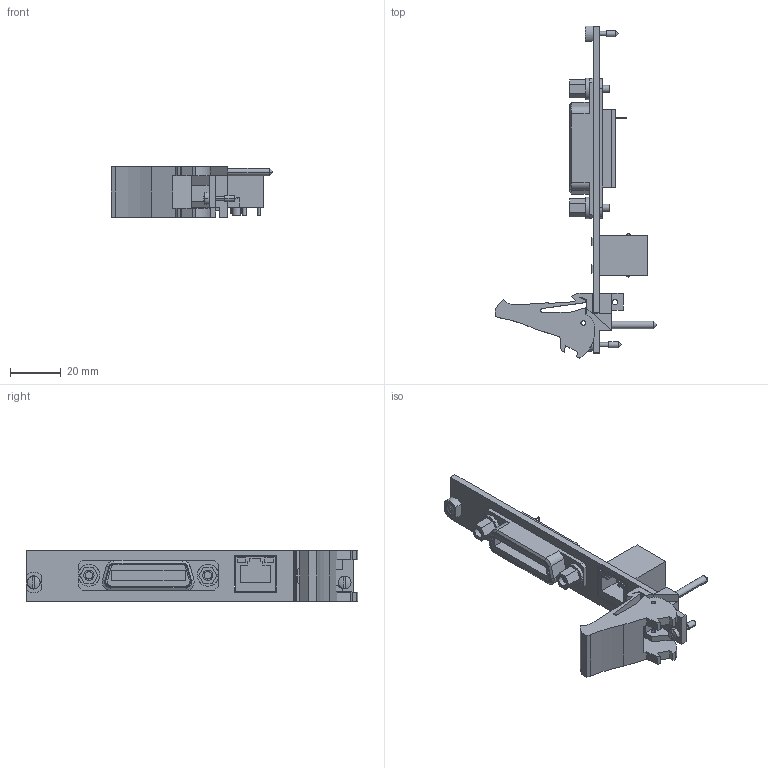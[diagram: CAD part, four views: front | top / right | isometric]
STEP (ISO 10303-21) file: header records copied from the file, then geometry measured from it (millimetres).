
FILE_DESCRIPTION((''),'2;1');
FILE_NAME('CU_PXI-8232','2018-03-07T',('hugyokog'),(''),'CREO PARAMETRIC BY PTC INC, 2015380','CREO PARAMETRIC BY PTC INC, 2015380','');
FILE_SCHEMA(('CONFIG_CONTROL_DESIGN'));
Length unit declared in the file: inch
Products named in the file (1): CU_PXI-8232
Bounding box: 63.53 x 130.62 x 20.02 mm (x, y, z)
Volume: 22350.3 mm3; surface area: 18485 mm2
Topology: 2 solids, 2 shells, 379 faces, 1012 edges, 659 vertices
Faces by surface type: plane 266, cylinder 99, cone 10, sphere 4
Entity records: 11796 total; most frequent: CARTESIAN_POINT 2050, ORIENTED_EDGE 2016, DIRECTION 1999, EDGE_CURVE 1008, VECTOR 773, LINE 773, VERTEX_POINT 659, AXIS2_PLACEMENT_3D 613
